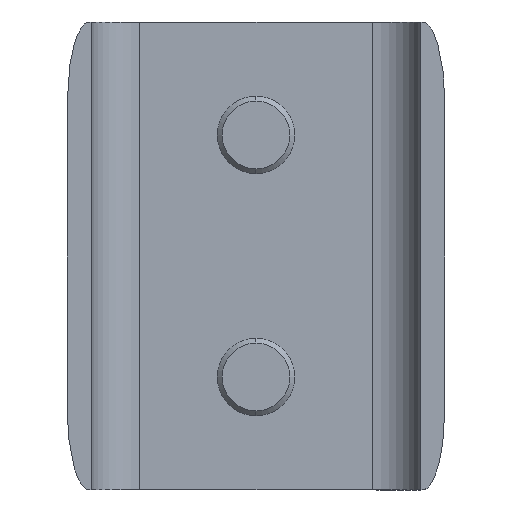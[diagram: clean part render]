
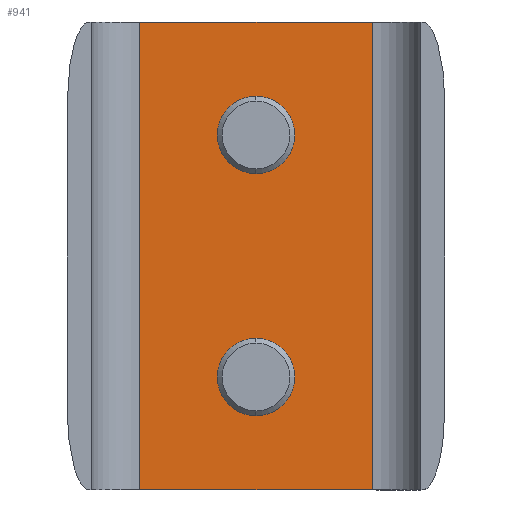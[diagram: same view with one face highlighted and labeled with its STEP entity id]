
A CAD part, front view. The second image highlights one B-rep face of the part: STEP entity #941.
In plain terms, the highlighted planar face has unit normal (0, -1, 0).
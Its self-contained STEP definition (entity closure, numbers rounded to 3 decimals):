
#22 = CARTESIAN_POINT ( 'NONE',  ( 0., 3., 9.9 ) ) ;
#26 = ORIENTED_EDGE ( 'NONE', *, *, #1037, .T. ) ;
#27 = FACE_BOUND ( 'NONE', #1086, .T. ) ;
#34 = CIRCLE ( 'NONE', #381, 2.4 ) ;
#59 = VERTEX_POINT ( 'NONE', #359 ) ;
#60 = DIRECTION ( 'NONE',  ( 0., 0., -1. ) ) ;
#70 = ORIENTED_EDGE ( 'NONE', *, *, #616, .T. ) ;
#79 = CARTESIAN_POINT ( 'NONE',  ( 7.2, 3., -14.5 ) ) ;
#88 = ORIENTED_EDGE ( 'NONE', *, *, #638, .F. ) ;
#95 = FACE_OUTER_BOUND ( 'NONE', #915, .T. ) ;
#105 = CIRCLE ( 'NONE', #1056, 2.4 ) ;
#178 = EDGE_LOOP ( 'NONE', ( #195, #234 ) ) ;
#180 = DIRECTION ( 'NONE',  ( 1., 0., 0. ) ) ;
#191 = LINE ( 'NONE', #1055, #296 ) ;
#195 = ORIENTED_EDGE ( 'NONE', *, *, #687, .F. ) ;
#232 = EDGE_CURVE ( 'NONE', #59, #1109, #491, .T. ) ;
#234 = ORIENTED_EDGE ( 'NONE', *, *, #293, .F. ) ;
#257 = AXIS2_PLACEMENT_3D ( 'NONE', #677, #1070, #1033 ) ;
#267 = CARTESIAN_POINT ( 'NONE',  ( 0., 3., -9.9 ) ) ;
#273 = VERTEX_POINT ( 'NONE', #267 ) ;
#288 = DIRECTION ( 'NONE',  ( 0., 0., 1. ) ) ;
#293 = EDGE_CURVE ( 'NONE', #273, #544, #1075, .T. ) ;
#296 = VECTOR ( 'NONE', #528, 1000. ) ;
#327 = EDGE_CURVE ( 'NONE', #896, #444, #542, .T. ) ;
#338 = EDGE_CURVE ( 'NONE', #712, #59, #1029, .T. ) ;
#345 = DIRECTION ( 'NONE',  ( 0., 0., 1. ) ) ;
#359 = CARTESIAN_POINT ( 'NONE',  ( 7.2, 3., 14.5 ) ) ;
#380 = AXIS2_PLACEMENT_3D ( 'NONE', #508, #434, #288 ) ;
#381 = AXIS2_PLACEMENT_3D ( 'NONE', #866, #768, #345 ) ;
#434 = DIRECTION ( 'NONE',  ( 0., -1., 0. ) ) ;
#444 = VERTEX_POINT ( 'NONE', #804 ) ;
#485 = VECTOR ( 'NONE', #586, 1000. ) ;
#491 = LINE ( 'NONE', #837, #1035 ) ;
#508 = CARTESIAN_POINT ( 'NONE',  ( 0., 3., 7.5 ) ) ;
#528 = DIRECTION ( 'NONE',  ( 0., 0., -1. ) ) ;
#542 = CIRCLE ( 'NONE', #380, 2.4 ) ;
#544 = VERTEX_POINT ( 'NONE', #957 ) ;
#546 = DIRECTION ( 'NONE',  ( 0., -1., 0. ) ) ;
#554 = CARTESIAN_POINT ( 'NONE',  ( 0., 3., -7.5 ) ) ;
#559 = AXIS2_PLACEMENT_3D ( 'NONE', #791, #944, #950 ) ;
#586 = DIRECTION ( 'NONE',  ( 1., 0., 0. ) ) ;
#616 = EDGE_CURVE ( 'NONE', #746, #1109, #872, .T. ) ;
#638 = EDGE_CURVE ( 'NONE', #444, #896, #34, .T. ) ;
#677 = CARTESIAN_POINT ( 'NONE',  ( 0., 3., -7.5 ) ) ;
#687 = EDGE_CURVE ( 'NONE', #544, #273, #105, .T. ) ;
#712 = VERTEX_POINT ( 'NONE', #1002 ) ;
#746 = VERTEX_POINT ( 'NONE', #824 ) ;
#758 = CARTESIAN_POINT ( 'NONE',  ( -7.2, 3., 14.5 ) ) ;
#767 = FACE_BOUND ( 'NONE', #178, .T. ) ;
#768 = DIRECTION ( 'NONE',  ( 0., -1., 0. ) ) ;
#791 = CARTESIAN_POINT ( 'NONE',  ( -7.2, 3., 14.5 ) ) ;
#798 = DIRECTION ( 'NONE',  ( 0., 0., 1. ) ) ;
#804 = CARTESIAN_POINT ( 'NONE',  ( 0., 3., 5.1 ) ) ;
#824 = CARTESIAN_POINT ( 'NONE',  ( -7.2, 3., -14.5 ) ) ;
#837 = CARTESIAN_POINT ( 'NONE',  ( 7.2, 3., 14.5 ) ) ;
#866 = CARTESIAN_POINT ( 'NONE',  ( 0., 3., 7.5 ) ) ;
#872 = LINE ( 'NONE', #882, #926 ) ;
#882 = CARTESIAN_POINT ( 'NONE',  ( -7.2, 3., -14.5 ) ) ;
#896 = VERTEX_POINT ( 'NONE', #22 ) ;
#915 = EDGE_LOOP ( 'NONE', ( #70, #1017, #1078, #26 ) ) ;
#926 = VECTOR ( 'NONE', #180, 1000. ) ;
#941 = ADVANCED_FACE ( 'NONE', ( #767, #27, #95 ), #1045, .F. ) ;
#944 = DIRECTION ( 'NONE',  ( 0., 1., 0. ) ) ;
#950 = DIRECTION ( 'NONE',  ( 0., 0., 1. ) ) ;
#957 = CARTESIAN_POINT ( 'NONE',  ( 0., 3., -5.1 ) ) ;
#1002 = CARTESIAN_POINT ( 'NONE',  ( -7.2, 3., 14.5 ) ) ;
#1009 = ORIENTED_EDGE ( 'NONE', *, *, #327, .F. ) ;
#1017 = ORIENTED_EDGE ( 'NONE', *, *, #232, .F. ) ;
#1029 = LINE ( 'NONE', #758, #485 ) ;
#1033 = DIRECTION ( 'NONE',  ( 0., 0., 1. ) ) ;
#1035 = VECTOR ( 'NONE', #60, 1000. ) ;
#1037 = EDGE_CURVE ( 'NONE', #712, #746, #191, .T. ) ;
#1045 = PLANE ( 'NONE',  #559 ) ;
#1055 = CARTESIAN_POINT ( 'NONE',  ( -7.2, 3., 14.5 ) ) ;
#1056 = AXIS2_PLACEMENT_3D ( 'NONE', #554, #546, #798 ) ;
#1070 = DIRECTION ( 'NONE',  ( 0., -1., 0. ) ) ;
#1075 = CIRCLE ( 'NONE', #257, 2.4 ) ;
#1078 = ORIENTED_EDGE ( 'NONE', *, *, #338, .F. ) ;
#1086 = EDGE_LOOP ( 'NONE', ( #1009, #88 ) ) ;
#1109 = VERTEX_POINT ( 'NONE', #79 ) ;
